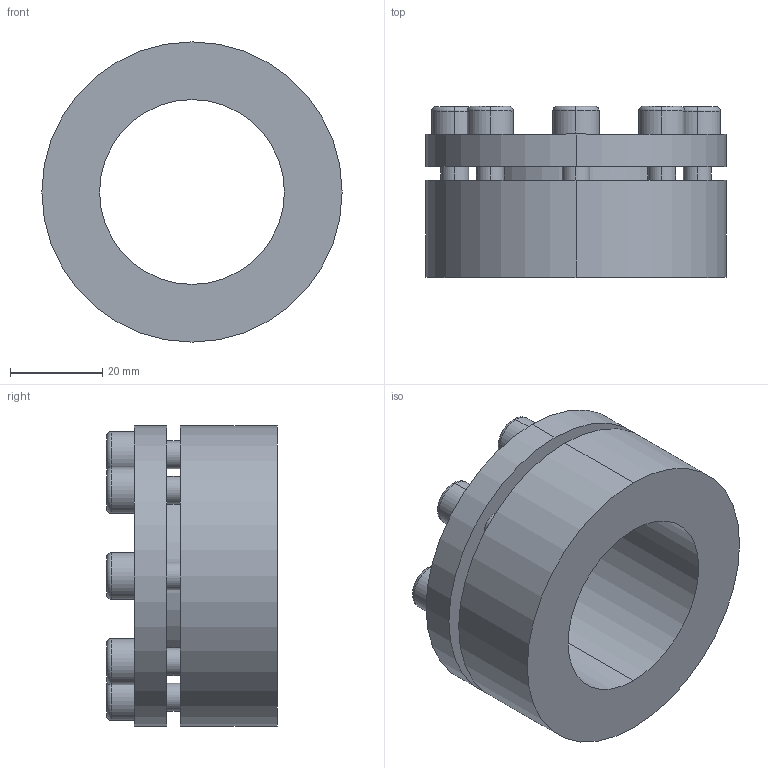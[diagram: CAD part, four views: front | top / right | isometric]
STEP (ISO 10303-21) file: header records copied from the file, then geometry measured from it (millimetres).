
FILE_DESCRIPTION (( 'STEP AP203' ), '1' );
FILE_NAME ('PL-H1 40-65.STEP', '2021-10-23T00:54:11', ( '' ), ( '' ), 'SwSTEP 2.0', 'SolidWorks 2018', '' );
FILE_SCHEMA (( 'CONFIG_CONTROL_DESIGN' ));
Length unit declared in the file: millimetre
Products named in the file (1): PL-H1 40-65
Bounding box: 65 x 37 x 65 mm (x, y, z)
Volume: 62190.8 mm3; surface area: 19686.3 mm2
Topology: 1 solids, 1 shells, 124 faces, 296 edges, 192 vertices
Faces by surface type: plane 68, cylinder 40, torus 16
Entity records: 3717 total; most frequent: DIRECTION 658, CARTESIAN_POINT 613, ORIENTED_EDGE 592, EDGE_CURVE 296, AXIS2_PLACEMENT_3D 237, VERTEX_POINT 192, VECTOR 184, LINE 184
